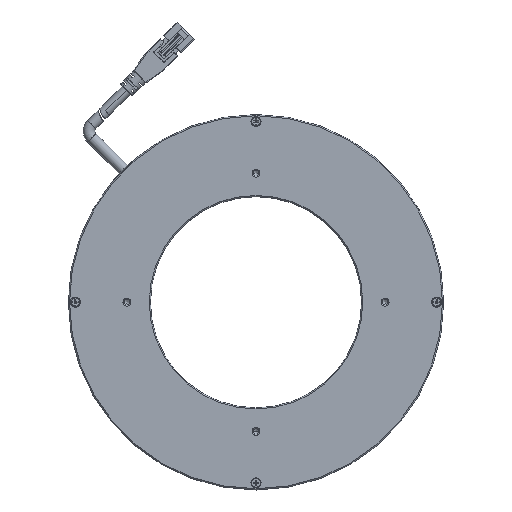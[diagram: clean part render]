
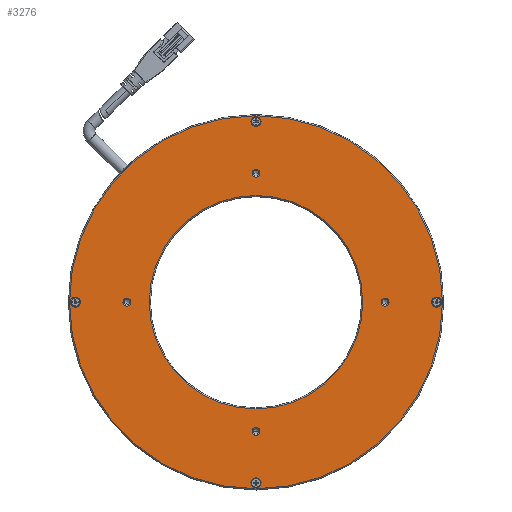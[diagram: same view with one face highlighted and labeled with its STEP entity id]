
A CAD part, top view. The second image highlights one B-rep face of the part: STEP entity #3276.
In plain terms, the highlighted planar face has unit normal (0, 0, 1).
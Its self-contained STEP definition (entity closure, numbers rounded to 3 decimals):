
#313=CARTESIAN_POINT('',(77.,0.,2.));
#314=DIRECTION('',(0.,0.,-1.));
#315=DIRECTION('',(-1.,0.,0.));
#316=AXIS2_PLACEMENT_3D('',#313,#314,#315);
#318=CARTESIAN_POINT('',(77.,0.,2.));
#319=DIRECTION('',(0.,0.,-1.));
#320=DIRECTION('',(1.,0.,0.));
#321=AXIS2_PLACEMENT_3D('',#318,#319,#320);
#323=CARTESIAN_POINT('',(0.,0.,2.));
#324=DIRECTION('',(0.,0.,-1.));
#325=DIRECTION('',(0.,-1.,0.));
#326=AXIS2_PLACEMENT_3D('',#323,#324,#325);
#328=CARTESIAN_POINT('',(0.,0.,2.));
#329=DIRECTION('',(0.,0.,-1.));
#330=DIRECTION('',(0.,1.,0.));
#331=AXIS2_PLACEMENT_3D('',#328,#329,#330);
#333=CARTESIAN_POINT('',(-55.,0.,2.));
#334=DIRECTION('',(0.,0.,-1.));
#335=DIRECTION('',(0.,-1.,0.));
#336=AXIS2_PLACEMENT_3D('',#333,#334,#335);
#338=CARTESIAN_POINT('',(-55.,0.,2.));
#339=DIRECTION('',(0.,0.,-1.));
#340=DIRECTION('',(0.,1.,0.));
#341=AXIS2_PLACEMENT_3D('',#338,#339,#340);
#343=CARTESIAN_POINT('',(0.,-55.,2.));
#344=DIRECTION('',(0.,0.,-1.));
#345=DIRECTION('',(1.,0.,0.));
#346=AXIS2_PLACEMENT_3D('',#343,#344,#345);
#348=CARTESIAN_POINT('',(0.,-55.,2.));
#349=DIRECTION('',(0.,0.,-1.));
#350=DIRECTION('',(-1.,0.,0.));
#351=AXIS2_PLACEMENT_3D('',#348,#349,#350);
#353=CARTESIAN_POINT('',(55.,0.,2.));
#354=DIRECTION('',(0.,0.,-1.));
#355=DIRECTION('',(0.,1.,0.));
#356=AXIS2_PLACEMENT_3D('',#353,#354,#355);
#358=CARTESIAN_POINT('',(55.,0.,2.));
#359=DIRECTION('',(0.,0.,-1.));
#360=DIRECTION('',(0.,-1.,0.));
#361=AXIS2_PLACEMENT_3D('',#358,#359,#360);
#363=CARTESIAN_POINT('',(0.,55.,2.));
#364=DIRECTION('',(0.,0.,-1.));
#365=DIRECTION('',(-1.,0.,0.));
#366=AXIS2_PLACEMENT_3D('',#363,#364,#365);
#368=CARTESIAN_POINT('',(0.,55.,2.));
#369=DIRECTION('',(0.,0.,-1.));
#370=DIRECTION('',(1.,0.,0.));
#371=AXIS2_PLACEMENT_3D('',#368,#369,#370);
#373=CARTESIAN_POINT('',(0.,77.,2.));
#374=DIRECTION('',(0.,0.,-1.));
#375=DIRECTION('',(0.,-1.,0.));
#376=AXIS2_PLACEMENT_3D('',#373,#374,#375);
#378=CARTESIAN_POINT('',(0.,77.,2.));
#379=DIRECTION('',(0.,0.,-1.));
#380=DIRECTION('',(0.,1.,0.));
#381=AXIS2_PLACEMENT_3D('',#378,#379,#380);
#383=CARTESIAN_POINT('',(-77.,0.,2.));
#384=DIRECTION('',(0.,0.,-1.));
#385=DIRECTION('',(1.,0.,0.));
#386=AXIS2_PLACEMENT_3D('',#383,#384,#385);
#388=CARTESIAN_POINT('',(-77.,0.,2.));
#389=DIRECTION('',(0.,0.,-1.));
#390=DIRECTION('',(-1.,0.,0.));
#391=AXIS2_PLACEMENT_3D('',#388,#389,#390);
#393=CARTESIAN_POINT('',(0.,-77.,2.));
#394=DIRECTION('',(0.,0.,-1.));
#395=DIRECTION('',(0.,1.,0.));
#396=AXIS2_PLACEMENT_3D('',#393,#394,#395);
#398=CARTESIAN_POINT('',(0.,-77.,2.));
#399=DIRECTION('',(0.,0.,-1.));
#400=DIRECTION('',(0.,-1.,0.));
#401=AXIS2_PLACEMENT_3D('',#398,#399,#400);
#403=CARTESIAN_POINT('',(0.,0.,2.));
#404=DIRECTION('',(0.,0.,1.));
#405=DIRECTION('',(0.,1.,0.));
#406=AXIS2_PLACEMENT_3D('',#403,#404,#405);
#408=CARTESIAN_POINT('',(0.,0.,2.));
#409=DIRECTION('',(0.,0.,1.));
#410=DIRECTION('',(0.,-1.,0.));
#411=AXIS2_PLACEMENT_3D('',#408,#409,#410);
#2217=CARTESIAN_POINT('',(0.,-79.5,2.));
#2218=CARTESIAN_POINT('',(0.,79.5,2.));
#2219=VERTEX_POINT('',#2217);
#2220=VERTEX_POINT('',#2218);
#2221=CARTESIAN_POINT('',(0.,-79.15,2.));
#2222=CARTESIAN_POINT('',(0.,-74.85,2.));
#2223=VERTEX_POINT('',#2221);
#2224=VERTEX_POINT('',#2222);
#2225=CARTESIAN_POINT('',(-79.15,0.,2.));
#2226=CARTESIAN_POINT('',(-74.85,0.,2.));
#2227=VERTEX_POINT('',#2225);
#2228=VERTEX_POINT('',#2226);
#2229=CARTESIAN_POINT('',(0.,79.15,2.));
#2230=CARTESIAN_POINT('',(0.,74.85,2.));
#2231=VERTEX_POINT('',#2229);
#2232=VERTEX_POINT('',#2230);
#2233=CARTESIAN_POINT('',(1.7,55.,2.));
#2234=CARTESIAN_POINT('',(-1.7,55.,2.));
#2235=VERTEX_POINT('',#2233);
#2236=VERTEX_POINT('',#2234);
#2237=CARTESIAN_POINT('',(55.,-1.7,2.));
#2238=CARTESIAN_POINT('',(55.,1.7,2.));
#2239=VERTEX_POINT('',#2237);
#2240=VERTEX_POINT('',#2238);
#2241=CARTESIAN_POINT('',(-1.7,-55.,2.));
#2242=CARTESIAN_POINT('',(1.7,-55.,2.));
#2243=VERTEX_POINT('',#2241);
#2244=VERTEX_POINT('',#2242);
#2245=CARTESIAN_POINT('',(-55.,1.7,2.));
#2246=CARTESIAN_POINT('',(-55.,-1.7,2.));
#2247=VERTEX_POINT('',#2245);
#2248=VERTEX_POINT('',#2246);
#2249=CARTESIAN_POINT('',(0.,45.5,2.));
#2250=CARTESIAN_POINT('',(0.,-45.5,2.));
#2251=VERTEX_POINT('',#2249);
#2252=VERTEX_POINT('',#2250);
#2253=CARTESIAN_POINT('',(79.15,0.,2.));
#2254=CARTESIAN_POINT('',(74.85,0.,2.));
#2255=VERTEX_POINT('',#2253);
#2256=VERTEX_POINT('',#2254);
#3213=CARTESIAN_POINT('',(0.,0.,2.));
#3214=DIRECTION('',(0.,0.,-1.));
#3215=DIRECTION('',(0.,-1.,0.));
#3216=AXIS2_PLACEMENT_3D('',#3213,#3214,#3215);
#3217=PLANE('',#3216);
#3219=ORIENTED_EDGE('',*,*,#3218,.F.);
#3221=ORIENTED_EDGE('',*,*,#3220,.F.);
#3222=EDGE_LOOP('',(#3219,#3221));
#3223=FACE_OUTER_BOUND('',#3222,.F.);
#3225=ORIENTED_EDGE('',*,*,#3224,.F.);
#3227=ORIENTED_EDGE('',*,*,#3226,.F.);
#3228=EDGE_LOOP('',(#3225,#3227));
#3229=FACE_BOUND('',#3228,.F.);
#3231=ORIENTED_EDGE('',*,*,#3230,.F.);
#3233=ORIENTED_EDGE('',*,*,#3232,.F.);
#3234=EDGE_LOOP('',(#3231,#3233));
#3235=FACE_BOUND('',#3234,.F.);
#3237=ORIENTED_EDGE('',*,*,#3236,.F.);
#3239=ORIENTED_EDGE('',*,*,#3238,.F.);
#3240=EDGE_LOOP('',(#3237,#3239));
#3241=FACE_BOUND('',#3240,.F.);
#3243=ORIENTED_EDGE('',*,*,#3242,.F.);
#3245=ORIENTED_EDGE('',*,*,#3244,.F.);
#3246=EDGE_LOOP('',(#3243,#3245));
#3247=FACE_BOUND('',#3246,.F.);
#3249=ORIENTED_EDGE('',*,*,#3248,.F.);
#3251=ORIENTED_EDGE('',*,*,#3250,.F.);
#3252=EDGE_LOOP('',(#3249,#3251));
#3253=FACE_BOUND('',#3252,.F.);
#3255=ORIENTED_EDGE('',*,*,#3254,.F.);
#3257=ORIENTED_EDGE('',*,*,#3256,.F.);
#3258=EDGE_LOOP('',(#3255,#3257));
#3259=FACE_BOUND('',#3258,.F.);
#3260=ORIENTED_EDGE('',*,*,#3180,.F.);
#3261=ORIENTED_EDGE('',*,*,#3195,.F.);
#3262=EDGE_LOOP('',(#3260,#3261));
#3263=FACE_BOUND('',#3262,.F.);
#3265=ORIENTED_EDGE('',*,*,#3264,.F.);
#3267=ORIENTED_EDGE('',*,*,#3266,.F.);
#3268=EDGE_LOOP('',(#3265,#3267));
#3269=FACE_BOUND('',#3268,.F.);
#3271=ORIENTED_EDGE('',*,*,#3270,.F.);
#3273=ORIENTED_EDGE('',*,*,#3272,.F.);
#3274=EDGE_LOOP('',(#3271,#3273));
#3275=FACE_BOUND('',#3274,.F.);
#3276=ADVANCED_FACE('',(#3223,#3229,#3235,#3241,#3247,#3253,#3259,#3263,#3269,
#3275),#3217,.F.);
#317=CIRCLE('',#316,2.15);
#322=CIRCLE('',#321,2.15);
#327=CIRCLE('',#326,45.5);
#332=CIRCLE('',#331,45.5);
#337=CIRCLE('',#336,1.7);
#342=CIRCLE('',#341,1.7);
#347=CIRCLE('',#346,1.7);
#352=CIRCLE('',#351,1.7);
#357=CIRCLE('',#356,1.7);
#362=CIRCLE('',#361,1.7);
#367=CIRCLE('',#366,1.7);
#372=CIRCLE('',#371,1.7);
#377=CIRCLE('',#376,2.15);
#382=CIRCLE('',#381,2.15);
#387=CIRCLE('',#386,2.15);
#392=CIRCLE('',#391,2.15);
#397=CIRCLE('',#396,2.15);
#402=CIRCLE('',#401,2.15);
#407=CIRCLE('',#406,79.5);
#412=CIRCLE('',#411,79.5);
#3180=EDGE_CURVE('',#2228,#2227,#387,.T.);
#3195=EDGE_CURVE('',#2227,#2228,#392,.T.);
#3218=EDGE_CURVE('',#2220,#2219,#407,.T.);
#3220=EDGE_CURVE('',#2219,#2220,#412,.T.);
#3224=EDGE_CURVE('',#2252,#2251,#327,.T.);
#3226=EDGE_CURVE('',#2251,#2252,#332,.T.);
#3230=EDGE_CURVE('',#2248,#2247,#337,.T.);
#3232=EDGE_CURVE('',#2247,#2248,#342,.T.);
#3236=EDGE_CURVE('',#2244,#2243,#347,.T.);
#3238=EDGE_CURVE('',#2243,#2244,#352,.T.);
#3242=EDGE_CURVE('',#2240,#2239,#357,.T.);
#3244=EDGE_CURVE('',#2239,#2240,#362,.T.);
#3248=EDGE_CURVE('',#2236,#2235,#367,.T.);
#3250=EDGE_CURVE('',#2235,#2236,#372,.T.);
#3254=EDGE_CURVE('',#2232,#2231,#377,.T.);
#3256=EDGE_CURVE('',#2231,#2232,#382,.T.);
#3264=EDGE_CURVE('',#2224,#2223,#397,.T.);
#3266=EDGE_CURVE('',#2223,#2224,#402,.T.);
#3270=EDGE_CURVE('',#2256,#2255,#317,.T.);
#3272=EDGE_CURVE('',#2255,#2256,#322,.T.);
